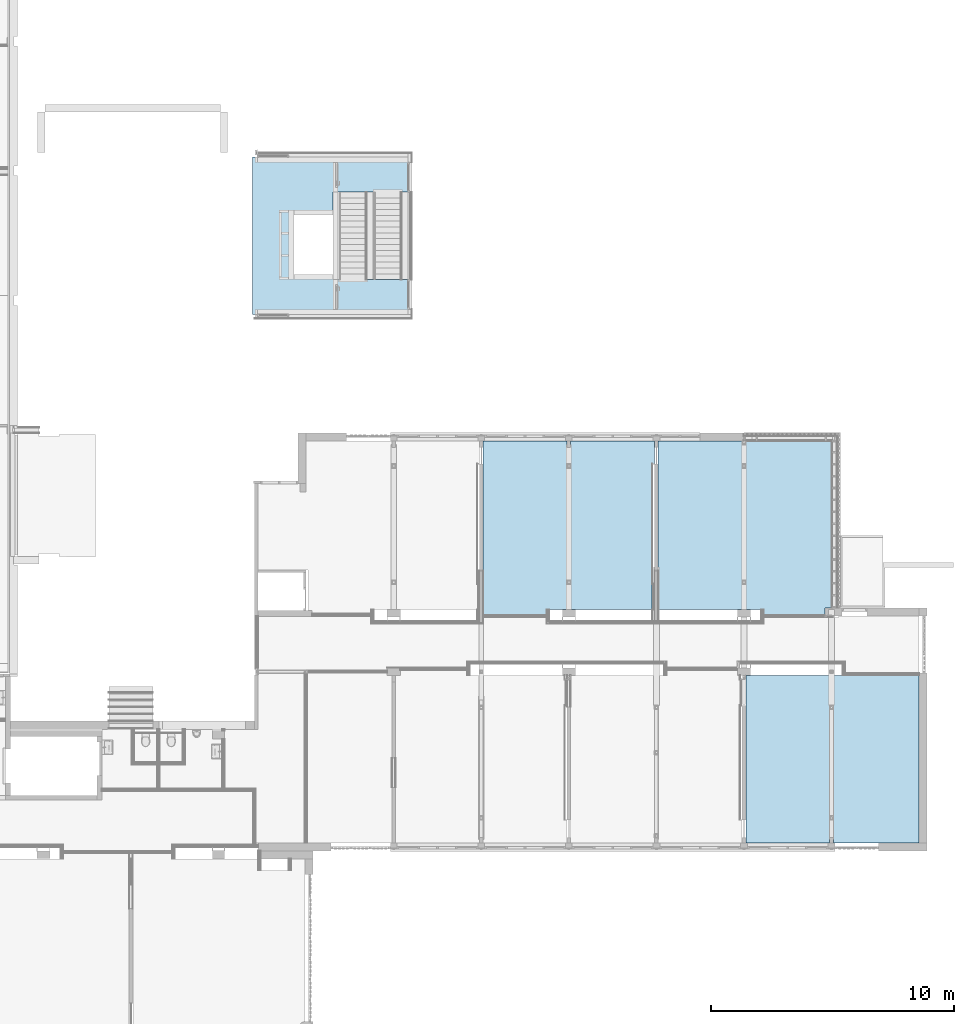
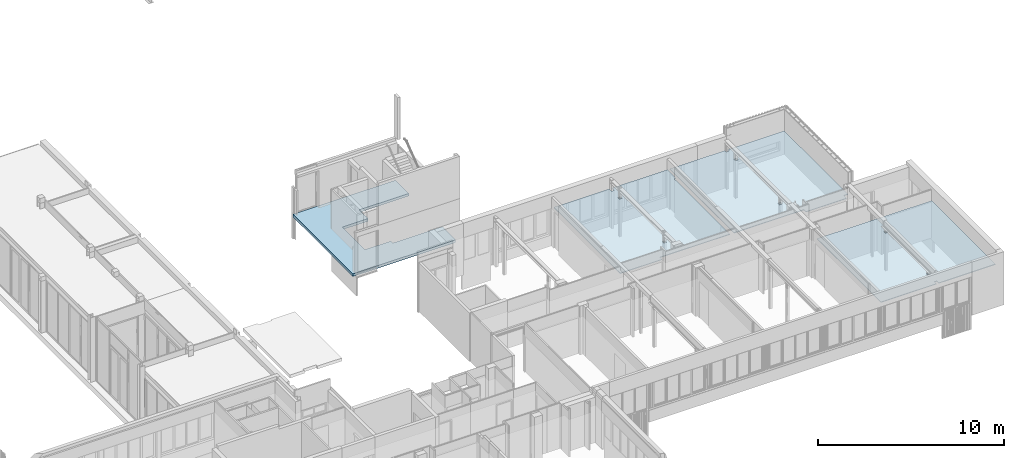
# One storey, part 26 of 99: 4 slabs.
"""IFC2X3 building model written with IfcOpenShell, lengths in millimetres."""

from ifc_helpers import new_model, entity, si_unit, converted_unit, derived_unit, money_unit, direction, frame, origin_with_axes, place, context, subcontext, project, spatial, faceted_brep, material, type_object, element, save


model = new_model("IFC2X3")

# Units and contexts
model_context = context("Model", 3, precision=0.01, world=origin_with_axes(), true_north=direction((0.0, 1.0)))
body_context = subcontext(model_context, "Body", "Model", "MODEL_VIEW")
ifc_project = project(units=[si_unit("LENGTHUNIT", "METRE", prefix="MILLI"), si_unit("AREAUNIT", "SQUARE_METRE"), si_unit("VOLUMEUNIT", "CUBIC_METRE"), converted_unit("PLANEANGLEUNIT", "DEGREE", entity("IfcPlaneAngleMeasure", 0.0174532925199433), si_unit("PLANEANGLEUNIT", "RADIAN"), dimensions=[0, 0, 0, 0, 0, 0, 0]), money_unit("EUR"), converted_unit("TIMEUNIT", "Year", entity("IfcTimeMeasure", 31557600.0), si_unit("TIMEUNIT", "SECOND"), dimensions=[0, 0, 1, 0, 0, 0, 0]), si_unit("MASSUNIT", "GRAM", prefix="KILO"), si_unit("THERMODYNAMICTEMPERATUREUNIT", "DEGREE_CELSIUS"), si_unit("LUMINOUSINTENSITYUNIT", "LUMEN"), si_unit("ENERGYUNIT", "JOULE", prefix="MEGA"), derived_unit("THERMALCONDUCTANCEUNIT", [(si_unit("POWERUNIT", "WATT"), 1), (si_unit("LENGTHUNIT", "METRE"), -1), (si_unit("THERMODYNAMICTEMPERATUREUNIT", "KELVIN"), -1)]), derived_unit("SPECIFICHEATCAPACITYUNIT", [(si_unit("ENERGYUNIT", "JOULE"), 1), (si_unit("MASSUNIT", "GRAM", prefix="KILO"), -1), (si_unit("THERMODYNAMICTEMPERATUREUNIT", "KELVIN"), -1)]), derived_unit("MASSDENSITYUNIT", [(si_unit("MASSUNIT", "GRAM", prefix="KILO"), 1), (si_unit("VOLUMEUNIT", "CUBIC_METRE"), -1)])], contexts=[model_context])

# Site, building, storey
site_placement = place(None, origin_with_axes())
site = spatial("IfcSite", under=ifc_project, at=site_placement, Name="Site", CompositionType="ELEMENT")
building_placement = place(site_placement, origin_with_axes())
building = spatial("IfcBuilding", under=site, at=building_placement, Name="Naam gebouw", CompositionType="ELEMENT")
storey_placement = place(building_placement, frame((0.0, 0.0, 7650.0), z_axis=(0.0, 0.0, 1.0), x_axis=(1.0, 0.0, 0.0)))
storey = spatial("IfcBuildingStorey", under=building, at=storey_placement, Name="2e verdieping N", CompositionType="ELEMENT", Elevation=7650.0)

# Slabs
ifc_material_1 = material(Name="ALG - BINNENAFWERKING")
slab_type_1 = type_object("IfcSlabType", Name="ALG - BINNENAFWERKING 40", PredefinedType="NOTDEFINED")
slab_1_placement = place(storey_placement, frame((39675.00000000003, 27505.91242510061, 2450.000000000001), z_axis=(0.0, 0.0, 1.0), x_axis=(1.0, 0.0, 0.0)))
element("IfcSlab", 1, at=slab_1_placement, inside=storey, type_object=slab_type_1, material=ifc_material_1, Name="_Vloer-x", PredefinedType="NOTDEFINED", context=body_context, shape_type="Brep", body=[
    faceted_brep([(3464.999999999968, -5859.999999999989, 39.99999999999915), (3584.999999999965, -5860.000000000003, 39.99999999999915), (3584.999999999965, -5739.999999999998, 39.99999999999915), (3464.999999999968, -5739.999999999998, 39.99999999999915), (3464.999999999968, -5859.999999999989, 0.0), (3584.999999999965, -5860.000000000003, 0.0), (3584.999999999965, -5739.999999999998, 0.0), (3464.999999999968, -5739.999999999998, 0.0)], [[[0, 1, 2, 3]], [[4, 5, 1, 0]], [[5, 6, 2, 1]], [[3, 2, 6, 7]], [[7, 4, 0, 3]], [[7, 6, 5, 4]]]),
    faceted_brep([(3464.999999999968, -1084.999999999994, 39.99999999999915), (3584.999999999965, -1085.000000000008, 39.99999999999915), (3584.999999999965, -965.0000000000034, 39.99999999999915), (3464.999999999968, -965.0000000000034, 39.99999999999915), (3464.999999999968, -1084.999999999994, 0.0), (3584.999999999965, -1085.000000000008, 0.0), (3584.999999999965, -965.0000000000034, 0.0), (3464.999999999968, -965.0000000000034, 0.0)], [[[0, 1, 2, 3]], [[4, 5, 1, 0]], [[5, 6, 2, 1]], [[3, 2, 6, 7]], [[7, 4, 0, 3]], [[7, 6, 5, 4]]]),
    faceted_brep([(3609.999999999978, -940.0000000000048, 0.0), (3609.999999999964, -965.0000000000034, 0.0), (3609.999999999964, -965.0000000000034, 39.99999999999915), (3609.999999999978, -940.0000000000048, 39.99999999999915), (2609.999950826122, -7149.999999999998, 0.0), (0.0, -7149.999999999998, 0.0), (0.0, 0.0, 0.0), (3449.999975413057, 0.0, 0.0), (3449.999975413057, -255.0000245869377, 0.0), (3599.999983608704, -255.0000245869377, 0.0), (3599.999983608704, 0.0, 0.0), (7049.999959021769, 0.0, 0.0), (7049.999959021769, -939.9999590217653, 0.0), (6950.000024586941, -939.9999590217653, 0.0), (6950.000024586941, -6925.00004097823, 0.0), (2609.999950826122, -6925.00004097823, 0.0), (3609.999999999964, -5884.999999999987, 0.0), (3609.999999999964, -5860.000000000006, 0.0), (3609.999999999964, -5739.999999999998, 0.0), (3609.999999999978, -5715.0, 0.0), (3464.999999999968, -5715.0, 0.0), (3439.999999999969, -5715.0, 0.0), (3439.999999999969, -5884.999999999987, 0.0), (3464.999999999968, -5884.999999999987, 0.0), (3609.999999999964, -1109.999999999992, 0.0), (3609.999999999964, -1085.000000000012, 0.0), (3464.999999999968, -940.0000000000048, 0.0), (3439.999999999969, -940.0000000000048, 0.0), (3439.999999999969, -1109.999999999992, 0.0), (3464.999999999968, -1109.999999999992, 0.0), (3609.999999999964, -1085.000000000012, 39.99999999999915), (3449.999975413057, -255.0000245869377, 39.99999999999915), (3449.999975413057, 0.0, 39.99999999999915), (0.0, 0.0, 39.99999999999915), (0.0, -7149.999999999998, 39.99999999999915), (2609.999950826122, -7149.999999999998, 39.99999999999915), (2609.999950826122, -6925.00004097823, 39.99999999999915), (6950.000024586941, -6925.00004097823, 39.99999999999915), (6950.000024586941, -939.9999590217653, 39.99999999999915), (7049.999959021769, -939.9999590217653, 39.99999999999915), (7049.999959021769, 0.0, 39.99999999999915), (3599.999983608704, 0.0, 39.99999999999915), (3599.999983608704, -255.0000245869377, 39.99999999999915), (3609.999999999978, -5715.0, 39.99999999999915), (3609.999999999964, -5739.999999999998, 39.99999999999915), (3609.999999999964, -5860.000000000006, 39.99999999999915), (3609.999999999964, -5884.999999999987, 39.99999999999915), (3464.999999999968, -5884.999999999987, 39.99999999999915), (3439.999999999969, -5884.999999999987, 39.99999999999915), (3439.999999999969, -5715.0, 39.99999999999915), (3464.999999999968, -5715.0, 39.99999999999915), (3609.999999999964, -1109.999999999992, 39.99999999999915), (3464.999999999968, -1109.999999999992, 39.99999999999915), (3439.999999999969, -1109.999999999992, 39.99999999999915), (3439.999999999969, -940.0000000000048, 39.99999999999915), (3464.999999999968, -940.0000000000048, 39.99999999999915)], [[[0, 1, 2, 3]], [[4, 5, 6, 7, 8, 9, 10, 11, 12, 13, 14, 15], [16, 17, 18, 19, 20, 21, 22, 23], [24, 25, 1, 0, 26, 27, 28, 29]], [[25, 30, 2, 1]], [[31, 32, 33, 34, 35, 36, 37, 38, 39, 40, 41, 42], [43, 44, 45, 46, 47, 48, 49, 50], [3, 2, 30, 51, 52, 53, 54, 55]], [[0, 3, 55, 26]], [[35, 34, 5, 4]], [[34, 33, 6, 5]], [[33, 32, 7, 6]], [[32, 31, 8, 7]], [[31, 42, 9, 8]], [[42, 41, 10, 9]], [[41, 40, 11, 10]], [[40, 39, 12, 11]], [[39, 38, 13, 12]], [[38, 37, 14, 13]], [[37, 36, 15, 14]], [[36, 35, 4, 15]], [[46, 45, 17, 16]], [[17, 45, 44, 18]], [[19, 18, 44, 43]], [[19, 43, 50, 20]], [[21, 20, 50, 49]], [[21, 49, 48, 22]], [[48, 47, 23, 22]], [[23, 47, 46, 16]], [[51, 30, 25, 24]], [[27, 26, 55, 54]], [[27, 54, 53, 28]], [[53, 52, 29, 28]], [[29, 52, 51, 24]]]),
])
slab_2_placement = place(storey_placement, frame((46875.00000000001, 27505.91242510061, 2450.000000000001), z_axis=(0.0, 0.0, 1.0), x_axis=(1.0, 0.0, 0.0)))
element("IfcSlab", 2, at=slab_2_placement, inside=storey, type_object=slab_type_1, material=ifc_material_1, Name="_Vloer-x", PredefinedType="NOTDEFINED", context=body_context, shape_type="Brep", body=[
    faceted_brep([(3464.999999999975, -1084.999999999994, 39.99999999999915), (3584.999999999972, -1085.000000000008, 39.99999999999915), (3584.999999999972, -965.0000000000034, 39.99999999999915), (3464.999999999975, -965.0000000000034, 39.99999999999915), (3464.999999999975, -1084.999999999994, 0.0), (3584.999999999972, -1085.000000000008, 0.0), (3584.999999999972, -965.0000000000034, 0.0), (3464.999999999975, -965.0000000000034, 0.0)], [[[0, 1, 2, 3]], [[4, 5, 1, 0]], [[5, 6, 2, 1]], [[3, 2, 6, 7]], [[7, 4, 0, 3]], [[7, 6, 5, 4]]]),
    faceted_brep([(3464.999999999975, -5859.999999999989, 39.99999999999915), (3584.999999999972, -5860.000000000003, 39.99999999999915), (3584.999999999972, -5739.999999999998, 39.99999999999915), (3464.999999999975, -5739.999999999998, 39.99999999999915), (3464.999999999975, -5859.999999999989, 0.0), (3584.999999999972, -5860.000000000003, 0.0), (3584.999999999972, -5739.999999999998, 0.0), (3464.999999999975, -5739.999999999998, 0.0)], [[[0, 1, 2, 3]], [[4, 5, 1, 0]], [[5, 6, 2, 1]], [[3, 2, 6, 7]], [[7, 4, 0, 3]], [[7, 6, 5, 4]]]),
    faceted_brep([(3609.999999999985, -5715.0, 0.0), (3609.999999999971, -5739.999999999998, 0.0), (3609.999999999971, -5739.999999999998, 39.99999999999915), (3609.999999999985, -5715.0, 39.99999999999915), (7124.999999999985, -6850.000000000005, 0.0), (6854.999999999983, -6850.000000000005, 0.0), (6854.999999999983, -6925.000000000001, 0.0), (6854.999999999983, -7149.999999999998, 0.0), (4339.999999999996, -7149.999999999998, 0.0), (4339.999999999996, -6925.000000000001, 0.0), (0.0, -6925.000000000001, 0.0), (0.0, 0.0, 0.0), (3439.999999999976, 0.0, 0.0), (3439.999999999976, -144.999999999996, 0.0), (3609.999999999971, -144.999999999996, 0.0), (3609.999999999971, 0.0, 0.0), (7124.999999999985, 0.0, 0.0), (3609.999999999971, -1109.999999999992, 0.0), (3609.999999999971, -1085.000000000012, 0.0), (3609.999999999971, -965.0000000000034, 0.0), (3609.999999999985, -940.0000000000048, 0.0), (3464.999999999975, -940.0000000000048, 0.0), (3439.999999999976, -940.0000000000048, 0.0), (3439.999999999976, -1109.999999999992, 0.0), (3464.999999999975, -1109.999999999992, 0.0), (3609.999999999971, -5884.999999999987, 0.0), (3609.999999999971, -5860.000000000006, 0.0), (3464.999999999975, -5715.0, 0.0), (3439.999999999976, -5715.0, 0.0), (3439.999999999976, -5884.999999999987, 0.0), (3464.999999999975, -5884.999999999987, 0.0), (3609.999999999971, -5860.000000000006, 39.99999999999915), (6854.999999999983, -7149.999999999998, 39.99999999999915), (6854.999999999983, -6925.000000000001, 39.99999999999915), (6854.999999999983, -6850.000000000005, 39.99999999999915), (7124.999999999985, -6850.000000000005, 39.99999999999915), (7124.999999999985, 0.0, 39.99999999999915), (3609.999999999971, 0.0, 39.99999999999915), (3609.999999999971, -144.999999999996, 39.99999999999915), (3439.999999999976, -144.999999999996, 39.99999999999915), (3439.999999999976, 0.0, 39.99999999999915), (0.0, 0.0, 39.99999999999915), (0.0, -6925.000000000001, 39.99999999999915), (4339.999999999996, -6925.000000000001, 39.99999999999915), (4339.999999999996, -7149.999999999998, 39.99999999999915), (3609.999999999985, -940.0000000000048, 39.99999999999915), (3609.999999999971, -965.0000000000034, 39.99999999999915), (3609.999999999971, -1085.000000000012, 39.99999999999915), (3609.999999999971, -1109.999999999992, 39.99999999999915), (3464.999999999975, -1109.999999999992, 39.99999999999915), (3439.999999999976, -1109.999999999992, 39.99999999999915), (3439.999999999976, -940.0000000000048, 39.99999999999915), (3464.999999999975, -940.0000000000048, 39.99999999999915), (3609.999999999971, -5884.999999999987, 39.99999999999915), (3464.999999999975, -5884.999999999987, 39.99999999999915), (3439.999999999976, -5884.999999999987, 39.99999999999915), (3439.999999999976, -5715.0, 39.99999999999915), (3464.999999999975, -5715.0, 39.99999999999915)], [[[0, 1, 2, 3]], [[4, 5, 6, 7, 8, 9, 10, 11, 12, 13, 14, 15, 16], [17, 18, 19, 20, 21, 22, 23, 24], [25, 26, 1, 0, 27, 28, 29, 30]], [[26, 31, 2, 1]], [[32, 33, 34, 35, 36, 37, 38, 39, 40, 41, 42, 43, 44], [45, 46, 47, 48, 49, 50, 51, 52], [3, 2, 31, 53, 54, 55, 56, 57]], [[0, 3, 57, 27]], [[5, 4, 35, 34]], [[5, 34, 33, 6]], [[7, 6, 33, 32]], [[32, 44, 8, 7]], [[44, 43, 9, 8]], [[43, 42, 10, 9]], [[42, 41, 11, 10]], [[41, 40, 12, 11]], [[40, 39, 13, 12]], [[39, 38, 14, 13]], [[38, 37, 15, 14]], [[37, 36, 16, 15]], [[36, 35, 4, 16]], [[48, 47, 18, 17]], [[18, 47, 46, 19]], [[20, 19, 46, 45]], [[20, 45, 52, 21]], [[22, 21, 52, 51]], [[22, 51, 50, 23]], [[50, 49, 24, 23]], [[24, 49, 48, 17]], [[53, 31, 26, 25]], [[28, 27, 57, 56]], [[28, 56, 55, 29]], [[55, 54, 30, 29]], [[30, 54, 53, 25]]]),
])
slab_3_placement = place(storey_placement, frame((50474.99998658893, 10990.91242510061, 2450.000000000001), z_axis=(0.0, 0.0, 1.0), x_axis=(1.0, 0.0, 0.0)))
element("IfcSlab", 3, at=slab_3_placement, inside=storey, type_object=slab_type_1, material=ifc_material_1, Name="_Vloer-x", PredefinedType="NOTDEFINED", context=body_context, shape_type="Brep", body=[
    faceted_brep([(3465.000013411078, 965.0000000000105, 39.99999999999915), (3585.000013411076, 964.9999999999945, 39.99999999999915), (3585.000013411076, 1084.999999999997, 39.99999999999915), (3465.000013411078, 1084.999999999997, 39.99999999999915), (3465.000013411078, 965.0000000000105, 0.0), (3585.000013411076, 964.9999999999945, 0.0), (3585.000013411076, 1084.999999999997, 0.0), (3465.000013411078, 1084.999999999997, 0.0)], [[[0, 1, 2, 3]], [[4, 5, 1, 0]], [[5, 6, 2, 1]], [[3, 2, 6, 7]], [[7, 4, 0, 3]], [[7, 6, 5, 4]]]),
    faceted_brep([(3465.000013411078, 5510.00000000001, 39.99999999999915), (3585.000013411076, 5509.999999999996, 39.99999999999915), (3585.000013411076, 5630.000000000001, 39.99999999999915), (3465.000013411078, 5630.000000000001, 39.99999999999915), (3465.000013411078, 5510.00000000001, 0.0), (3585.000013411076, 5509.999999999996, 0.0), (3585.000013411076, 5630.000000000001, 0.0), (3465.000013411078, 5630.000000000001, 0.0)], [[[0, 1, 2, 3]], [[4, 5, 1, 0]], [[5, 6, 2, 1]], [[3, 2, 6, 7]], [[7, 4, 0, 3]], [[7, 6, 5, 4]]]),
    faceted_brep([(3610.000013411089, 5654.999999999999, 0.0), (3610.000013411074, 5630.000000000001, 0.0), (3610.000013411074, 5630.000000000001, 39.99999999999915), (3610.000013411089, 5654.999999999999, 39.99999999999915), (3450.000013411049, 210.0000000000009, 0.0), (3450.000013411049, 0.0, 0.0), (0.0, 0.0, 0.0), (0.0, 6880.000048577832, 0.0), (7125.000013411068, 6880.000048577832, 0.0), (7125.000013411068, 0.0, 0.0), (3600.000013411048, 0.0, 0.0), (3600.000013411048, 210.0000000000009, 0.0), (3610.000013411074, 940.0000000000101, 0.0), (3610.000013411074, 964.9999999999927, 0.0), (3610.000013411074, 1084.999999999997, 0.0), (3610.000013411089, 1109.999999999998, 0.0), (3465.000013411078, 1109.999999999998, 0.0), (3440.00001341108, 1109.999999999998, 0.0), (3440.00001341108, 940.0000000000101, 0.0), (3465.000013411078, 940.0000000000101, 0.0), (3610.000013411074, 5485.000000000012, 0.0), (3610.000013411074, 5509.999999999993, 0.0), (3465.000013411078, 5654.999999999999, 0.0), (3440.00001341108, 5654.999999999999, 0.0), (3440.00001341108, 5485.000000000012, 0.0), (3465.000013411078, 5485.000000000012, 0.0), (3610.000013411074, 5509.999999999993, 39.99999999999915), (7125.000013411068, 6880.000048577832, 39.99999999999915), (0.0, 6880.000048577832, 39.99999999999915), (0.0, 0.0, 39.99999999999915), (3450.000013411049, 0.0, 39.99999999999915), (3450.000013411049, 210.0000000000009, 39.99999999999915), (3600.000013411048, 210.0000000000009, 39.99999999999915), (3600.000013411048, 0.0, 39.99999999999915), (7125.000013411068, 0.0, 39.99999999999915), (3610.000013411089, 1109.999999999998, 39.99999999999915), (3610.000013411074, 1084.999999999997, 39.99999999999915), (3610.000013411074, 964.9999999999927, 39.99999999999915), (3610.000013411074, 940.0000000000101, 39.99999999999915), (3465.000013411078, 940.0000000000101, 39.99999999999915), (3440.00001341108, 940.0000000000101, 39.99999999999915), (3440.00001341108, 1109.999999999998, 39.99999999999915), (3465.000013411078, 1109.999999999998, 39.99999999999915), (3610.000013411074, 5485.000000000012, 39.99999999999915), (3465.000013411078, 5485.000000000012, 39.99999999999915), (3440.00001341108, 5485.000000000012, 39.99999999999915), (3440.00001341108, 5654.999999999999, 39.99999999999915), (3465.000013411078, 5654.999999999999, 39.99999999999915)], [[[0, 1, 2, 3]], [[4, 5, 6, 7, 8, 9, 10, 11], [12, 13, 14, 15, 16, 17, 18, 19], [20, 21, 1, 0, 22, 23, 24, 25]], [[21, 26, 2, 1]], [[27, 28, 29, 30, 31, 32, 33, 34], [35, 36, 37, 38, 39, 40, 41, 42], [3, 2, 26, 43, 44, 45, 46, 47]], [[0, 3, 47, 22]], [[31, 30, 5, 4]], [[30, 29, 6, 5]], [[29, 28, 7, 6]], [[28, 27, 8, 7]], [[27, 34, 9, 8]], [[34, 33, 10, 9]], [[33, 32, 11, 10]], [[32, 31, 4, 11]], [[38, 37, 13, 12]], [[13, 37, 36, 14]], [[15, 14, 36, 35]], [[15, 35, 42, 16]], [[17, 16, 42, 41]], [[17, 41, 40, 18]], [[40, 39, 19, 18]], [[19, 39, 38, 12]], [[43, 26, 21, 20]], [[23, 22, 47, 46]], [[23, 46, 45, 24]], [[45, 44, 25, 24]], [[25, 44, 43, 20]]]),
])
ifc_material_2 = material(Name="beton")
slab_type_2 = type_object("IfcSlabType", Name="Floor:23_3B_beton 170mm", PredefinedType="FLOOR")
slab_4_placement = place(storey_placement, frame((36581.00000002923, 32711.91242628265, -1729.99999999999), z_axis=(0.0, 0.0, 1.0), x_axis=(1.0, 0.0, 0.0)))
element("IfcSlab", 4, at=slab_4_placement, inside=storey, type_object=slab_type_2, material=ifc_material_2, Name="Floor:23_3B_beton 170mm", PredefinedType="FLOOR", context=body_context, shape_type="Brep", body=[
    faceted_brep([(0.0, 0.0, 0.0), (0.0, 0.0, -169.9999999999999), (0.0, 1434.000000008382, -169.9999999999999), (0.0, 1434.000000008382, 0.0), (-6389.999999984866, 0.0, 0.0), (-6389.999999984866, 0.0, -169.9999999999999), (-6389.999999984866, 6467.999999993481, -169.9999999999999), (0.0, 6467.999999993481, -169.9999999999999), (0.0, 5033.999999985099, -169.9999999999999), (-3081.999999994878, 5033.999999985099, -169.9999999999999), (-3082.000000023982, 4088.000000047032, -169.9999999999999), (-4681.999999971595, 4087.999999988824, -169.9999999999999), (-4682.000000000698, 1648.000000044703, -169.9999999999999), (-3081.999999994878, 1647.999999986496, -169.9999999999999), (-3081.999999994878, 1434.000000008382, -169.9999999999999), (-3081.999999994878, 1434.000000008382, 0.0), (-3081.999999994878, 1647.999999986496, 0.0), (-4682.000000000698, 1648.000000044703, 0.0), (-4681.999999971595, 4087.999999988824, 0.0), (-3082.000000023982, 4088.000000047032, 0.0), (-3081.999999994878, 5033.999999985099, 0.0), (0.0, 5033.999999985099, 0.0), (0.0, 6467.999999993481, 0.0), (-6389.999999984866, 6467.999999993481, 0.0)], [[[0, 1, 2, 3]], [[4, 5, 1, 0]], [[2, 1, 5, 6, 7, 8, 9, 10, 11, 12, 13, 14]], [[3, 2, 14, 15]], [[4, 0, 3, 15, 16, 17, 18, 19, 20, 21, 22, 23]], [[23, 6, 5, 4]], [[22, 7, 6, 23]], [[21, 8, 7, 22]], [[20, 9, 8, 21]], [[19, 10, 9, 20]], [[18, 11, 10, 19]], [[17, 12, 11, 18]], [[16, 13, 12, 17]], [[15, 14, 13, 16]]]),
])

save(model, "model.ifc")
